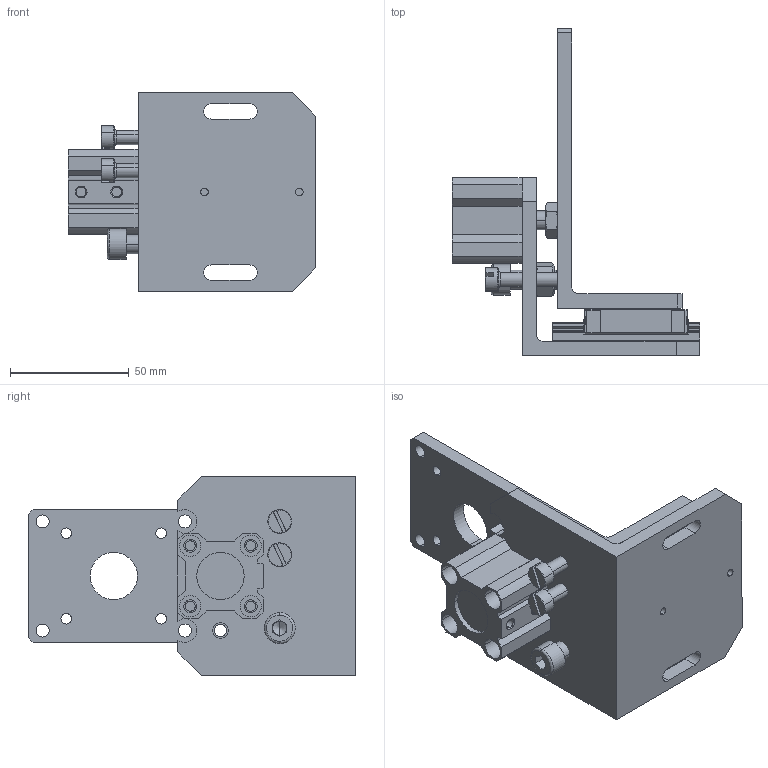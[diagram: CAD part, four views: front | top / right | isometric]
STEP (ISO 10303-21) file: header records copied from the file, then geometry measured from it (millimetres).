
FILE_DESCRIPTION (( 'STEP AP214' ), '1' );
FILE_NAME ('NT-2010TM-P.STEP', '2019-11-13T06:58:55', ( '微软用户' ), ( '微软中国' ), 'SwSTEP 2.0', 'SolidWorks 2016', '' );
FILE_SCHEMA (( 'AUTOMOTIVE_DESIGN' ));
Length unit declared in the file: millimetre
Products named in the file (1): NT-2010TM-P
Bounding box: 104.5 x 138 x 84 mm (x, y, z)
Volume: 177103.8 mm3; surface area: 78346.7 mm2
Topology: 11 solids, 11 shells, 665 faces, 1786 edges, 1169 vertices
Faces by surface type: plane 337, cylinder 244, cone 72, bspline 12
Full cylindrical faces by diameter (mm): 3.242 x4
Entity records: 33213 total; most frequent: CARTESIAN_POINT 9301, ORIENTED_EDGE 3552, DIRECTION 3180, EDGE_CURVE 1776, VERTEX_POINT 1169, AXIS2_PLACEMENT_3D 1064, LINE 1052, VECTOR 1052
